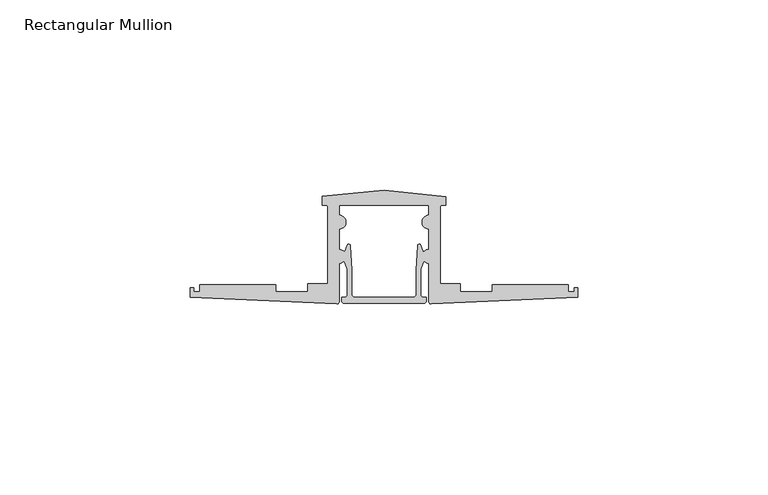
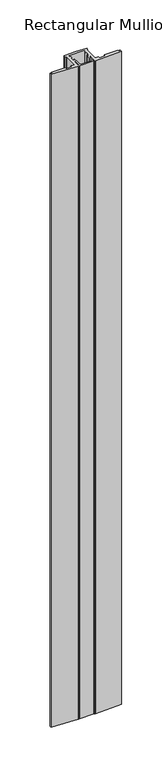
"""IFC4 building model written with IfcOpenShell, lengths in millimetres: member geometry, Rectangular Mullion : TE-H-01_03_Joint HF102."""

import ifcopenshell
import ifcopenshell.guid

model = None  # the IFC model being written
_history = None  # IfcOwnerHistory: only IFC2X3 demands one
_inside = {}  # id of a spatial element -> (the spatial element, [elements in it])
_under = {}  # id of a project, library or spatial element -> (it, [spatial elements below it])
_declared = {}  # id of a project -> (the project, [libraries it declares])
_typed = {}  # id of a type object -> (the type object, [elements of that type])
_made_of = {}  # id of a material, layer set ... -> (it, [elements and type objects made of it])


def new_model(schema):
    """Start an empty IFC model of exactly this schema.

    Asked for "IFC4X3", IfcOpenShell would pick the latest addendum, in which some entities
    have other attributes; the version numbers below select the first issue.
    IFC2X3 requires an IfcOwnerHistory on every rooted entity: one is made here for all.
    """
    global model, _history
    if schema == "IFC4X3":
        model = ifcopenshell.file(schema_version=(4, 3, 0, 0))
    else:
        model = ifcopenshell.file(schema=schema)
    _inside.clear()
    _under.clear()
    _declared.clear()
    _typed.clear()
    _made_of.clear()
    _history = None
    if model.schema == "IFC2X3":
        org = make("IfcOrganization", Name="unknown")
        user = make(
            "IfcPersonAndOrganization",
            ThePerson=make("IfcPerson", FamilyName="unknown"),
            TheOrganization=org,
        )
        app = make(
            "IfcApplication",
            ApplicationDeveloper=org,
            Version="unknown",
            ApplicationFullName="unknown",
            ApplicationIdentifier="unknown",
        )
        _history = make(
            "IfcOwnerHistory",
            OwningUser=user,
            OwningApplication=app,
            ChangeAction="ADDED",
            CreationDate=0,
        )
    return model


def make(cls, **values):
    """One entity of the class cls with the attributes given. An attribute that is None is left unset."""
    return model.create_entity(
        cls, **{name: value for name, value in values.items() if value is not None}
    )


def rooted(cls, **values):
    """An entity with a GlobalId (a new one), such as an element, a storey or a relation."""
    return make(cls, GlobalId=ifcopenshell.guid.new(), OwnerHistory=_history, **values)


def si_unit(unit_type, name, prefix=None):
    """IfcSIUnit, for example si_unit("LENGTHUNIT", "METRE", prefix="MILLI")."""
    return make("IfcSIUnit", UnitType=unit_type, Prefix=prefix, Name=name)


def assignment(units):
    """IfcUnitAssignment: the units of a project."""
    return None if units is None else make("IfcUnitAssignment", Units=units)


def point(xyz):
    """IfcCartesianPoint."""
    return None if xyz is None else make("IfcCartesianPoint", Coordinates=xyz)


def direction(xyz):
    """IfcDirection."""
    return None if xyz is None else make("IfcDirection", DirectionRatios=xyz)


def frame(location, z_axis=None, x_axis=None):
    """IfcAxis2Placement3D, a coordinate frame: its origin and axes. An axis left out is left unset."""
    return make(
        "IfcAxis2Placement3D",
        Location=point(location),
        Axis=direction(z_axis),
        RefDirection=direction(x_axis),
    )


def frame_2d(location, x_axis=None):
    """IfcAxis2Placement2D, a coordinate frame in the plane: its origin and x axis."""
    return make(
        "IfcAxis2Placement2D", Location=point(location), RefDirection=direction(x_axis)
    )


def origin():
    """The frame at (0, 0, 0) with its axes left unset."""
    return frame((0.0, 0.0, 0.0))


def place(relative_to, where):
    """IfcLocalPlacement: puts the frame where relative to a parent placement (None: the world)."""
    return make(
        "IfcLocalPlacement", PlacementRelTo=relative_to, RelativePlacement=where
    )


def context(
    kind, dimensions, precision=None, world=None, true_north=None, identifier=None
):
    """IfcGeometricRepresentationContext, for example the 3D "Model" context."""
    return make(
        "IfcGeometricRepresentationContext",
        ContextIdentifier=identifier,
        ContextType=kind,
        CoordinateSpaceDimension=dimensions,
        Precision=precision,
        WorldCoordinateSystem=world,
        TrueNorth=true_north,
    )


def project(units=None, contexts=None):
    """IfcProject with its units and contexts."""
    return rooted(
        "IfcProject",
        Name="project",
        RepresentationContexts=contexts,
        UnitsInContext=assignment(units),
    )


def spatial(cls, under=None, at=None, **own):
    """A site, building, storey or space (cls), placed at a placement, below another one or the project."""
    s = rooted(cls, ObjectPlacement=at, **own)
    if under is not None:
        _under.setdefault(under.id(), (under, []))[1].append(s)
    return s


def polyline(points):
    """IfcPolyline through the points."""
    return make("IfcPolyline", Points=[point(p) for p in points])


def circle_curve(where, radius):
    """IfcCircle in the frame where."""
    return make("IfcCircle", Position=where, Radius=radius)


def trimmed(basis, trim1, trim2, sense, master):
    """IfcTrimmedCurve: the piece of a basis curve between two trims."""
    return make(
        "IfcTrimmedCurve",
        BasisCurve=basis,
        Trim1=trim1,
        Trim2=trim2,
        SenseAgreement=sense,
        MasterRepresentation=master,
    )


def segment(curve, same_sense, transition):
    """IfcCompositeCurveSegment."""
    return make(
        "IfcCompositeCurveSegment",
        Transition=transition,
        SameSense=same_sense,
        ParentCurve=curve,
    )


def composite_curve(segments, self_intersect=None):
    """IfcCompositeCurve: segments joined end to end."""
    return make("IfcCompositeCurve", Segments=segments, SelfIntersect=self_intersect)


def outline(outer, holes=None, kind="AREA"):
    """IfcArbitraryClosedProfileDef: a profile drawn as a closed curve; with holes, ...WithVoids."""
    if holes is None:
        return make("IfcArbitraryClosedProfileDef", ProfileType=kind, OuterCurve=outer)
    return make(
        "IfcArbitraryProfileDefWithVoids",
        ProfileType=kind,
        OuterCurve=outer,
        InnerCurves=holes,
    )


def extrude(swept, where, along, depth):
    """IfcExtrudedAreaSolid: the profile swept, set in the frame where, extruded along a direction by depth."""
    return make(
        "IfcExtrudedAreaSolid",
        SweptArea=swept,
        Position=where,
        ExtrudedDirection=direction(along),
        Depth=depth,
    )


def shape(context_of_items, identifier, shape_type, items):
    """IfcShapeRepresentation: the items that make up one representation, for example the "Body"."""
    return make(
        "IfcShapeRepresentation",
        ContextOfItems=context_of_items,
        RepresentationIdentifier=identifier,
        RepresentationType=shape_type,
        Items=items,
    )


def source(mapping_origin, context_of_items, identifier, shape_type, items):
    """IfcRepresentationMap: a shape defined once, which mapped items show again and again."""
    return make(
        "IfcRepresentationMap",
        MappingOrigin=mapping_origin,
        MappedRepresentation=shape(context_of_items, identifier, shape_type, items),
    )


def transform(
    local_origin,
    x_axis=None,
    y_axis=None,
    z_axis=None,
    scale=None,
    scale2=None,
    scale3=None,
    uniform=True,
):
    """IfcCartesianTransformationOperator3D, or its non-uniform kind. x_axis, y_axis, z_axis: its Axis1, 2, 3."""
    if uniform:
        return make(
            "IfcCartesianTransformationOperator3D",
            Axis1=direction(x_axis),
            Axis2=direction(y_axis),
            LocalOrigin=point(local_origin),
            Scale=scale,
            Axis3=direction(z_axis),
        )
    return make(
        "IfcCartesianTransformationOperator3DnonUniform",
        Axis1=direction(x_axis),
        Axis2=direction(y_axis),
        LocalOrigin=point(local_origin),
        Scale=scale,
        Axis3=direction(z_axis),
        Scale2=scale2,
        Scale3=scale3,
    )


def mapped(mapping_source, mapping_target):
    """IfcMappedItem: shows the shape of a source again, moved by a transform."""
    return make(
        "IfcMappedItem", MappingSource=mapping_source, MappingTarget=mapping_target
    )


def made_of(thing, what):
    """Note that an element or type object is made of a material, layer set ...; save() writes the relation."""
    if what is not None:
        _made_of.setdefault(what.id(), (what, []))[1].append(thing)
    return thing


def element(
    cls,
    number,
    at=None,
    inside=None,
    cuts=None,
    type_object=None,
    material=None,
    context=None,
    identifier="Body",
    shape_type=None,
    held_by="IfcProductDefinitionShape",
    body=None,
    shapes=None,
    **own,
):
    """One element of the class cls, such as IfcWall. Its Tag is "e" and its number.

    at: its placement. inside: the storey or other place that contains it. cuts: it is an
    opening in that element (IfcRelVoidsElement). A single representation is given by context,
    identifier, shape_type and body (its items); several are given by shapes. held_by: the class
    of the entity that holds the representations. save() writes the other relations.
    """
    e = rooted(cls, Tag="e%d" % number, ObjectPlacement=at, **own)
    if body is not None:
        shapes = [shape(context, identifier, shape_type, body)]
    if shapes is not None:
        e.Representation = make(held_by, Representations=shapes)
    if inside is not None:
        _inside.setdefault(inside.id(), (inside, []))[1].append(e)
    if cuts is not None:
        rooted(
            "IfcRelVoidsElement", RelatingBuildingElement=cuts, RelatedOpeningElement=e
        )
    if type_object is not None:
        _typed.setdefault(type_object.id(), (type_object, []))[1].append(e)
    return made_of(e, material)


def aggregate(whole, parts):
    """IfcRelAggregates: a whole, such as a stair, and the parts it consists of."""
    return rooted("IfcRelAggregates", RelatingObject=whole, RelatedObjects=parts)


def save(model, path):
    """Write the relations noted so far, then the file.

    IfcRelAggregates (storeys below a building ...), IfcRelContainedInSpatialStructure (elements
    in a storey), IfcRelDefinesByType, IfcRelAssociatesMaterial and IfcRelDeclares: one each for
    every whole, place, type object, material and project.
    """
    for whole, parts in _under.values():
        aggregate(whole, parts)
    for where, things in _inside.values():
        rooted(
            "IfcRelContainedInSpatialStructure",
            RelatedElements=things,
            RelatingStructure=where,
        )
    for kind, things in _typed.values():
        rooted("IfcRelDefinesByType", RelatedObjects=things, RelatingType=kind)
    for what, things in _made_of.values():
        rooted("IfcRelAssociatesMaterial", RelatedObjects=things, RelatingMaterial=what)
    for by, libraries in _declared.values():
        rooted("IfcRelDeclares", RelatingContext=by, RelatedDefinitions=libraries)
    model.write(path)


def rectangular_mullion_6308ee2a(model_context):
    return source(origin(), model_context, "Body", "SweptSolid", [
        extrude(outline(composite_curve([segment(polyline([(-16.3, 20.7636928), (-16.3, 23.0943093)]), True, "CONTINUOUS"), segment(trimmed(circle_curve(frame_2d((-0.3778425, -55.077345)), 79.7767048), [point((-16.3, 23.0943093))], [point((16.3, 22.9365782))], False, "CARTESIAN"), True, "CONTINUOUS"), segment(polyline([(16.3, 22.9365782), (16.3, 20.7636928), (15.35, 20.7636928)]), True, "CONTINUOUS"), segment(trimmed(circle_curve(frame_2d((15.35, 20.2136928)), 0.55), [point((15.35, 20.7636928))], [point((14.8, 20.2136928))], True, "CARTESIAN"), True, "CONTINUOUS"), segment(polyline([(14.8, 20.2136928), (14.8, 0.0), (20.0, 0.0), (20.0, -2.0), (28.4182257, -2.0), (28.4182257, -0.2), (48.4182257, -0.2), (48.4182257, -2.0), (50.0239552, -2.0), (50.0239552, -1.0305469), (51.002067, -1.0305469), (51.002067, -3.421028), (12.3757889, -5.2341639)]), True, "CONTINUOUS"), segment(trimmed(circle_curve(frame_2d((12.35, -4.6847689)), 0.55), [point((12.3757889, -5.2341639))], [point((11.8, -4.6847689))], False, "CARTESIAN"), True, "CONTINUOUS"), segment(polyline([(11.8, -4.6847689), (11.8, 5.4634871)]), True, "CONTINUOUS"), segment(trimmed(circle_curve(frame_2d((11.8, 7.2634871)), 1.8), [point((11.8, 5.4634871))], [point((10.4804437, 6.039244))], False, "CARTESIAN"), True, "CONTINUOUS"), segment(polyline([(10.4804437, 6.039244), (9.7126284, 3.8448708), (9.7126284, -2.9982227)]), True, "CONTINUOUS"), segment(trimmed(circle_curve(frame_2d((10.2626284, -2.9982227)), 0.55), [point((9.7126284, -2.9982227))], [point((10.2626284, -3.5482227))], True, "CARTESIAN"), True, "CONTINUOUS"), segment(polyline([(10.2626284, -3.5482227), (11.0624892, -3.5482227), (11.0624892, -4.4982227)]), True, "CONTINUOUS"), segment(trimmed(circle_curve(frame_2d((10.5124892, -4.4982227)), 0.55), [point((11.0624892, -4.4982227))], [point((10.5124892, -5.0482227))], False, "CARTESIAN"), True, "CONTINUOUS"), segment(polyline([(10.5124892, -5.0482227), (-10.5124892, -5.0482227)]), True, "CONTINUOUS"), segment(trimmed(circle_curve(frame_2d((-10.5124892, -4.4982227)), 0.55), [point((-10.5124892, -5.0482227))], [point((-11.0624892, -4.4982227))], False, "CARTESIAN"), True, "CONTINUOUS"), segment(polyline([(-11.0624892, -4.4982227), (-11.0624892, -3.5482227), (-10.2626284, -3.5482227)]), True, "CONTINUOUS"), segment(trimmed(circle_curve(frame_2d((-10.2626284, -2.9982227)), 0.55), [point((-10.2626284, -3.5482227))], [point((-9.7126284, -2.9982227))], True, "CARTESIAN"), True, "CONTINUOUS"), segment(polyline([(-9.7126284, -2.9982227), (-9.7126284, 3.8448708), (-10.4433575, 5.9332537)]), True, "CONTINUOUS"), segment(trimmed(circle_curve(frame_2d((-11.8, 7.2634871)), 1.9), [point((-10.4433575, 5.9332537))], [point((-10.3404276, 8.4798952))], True, "CARTESIAN"), True, "CONTINUOUS"), segment(polyline([(-10.3404276, 8.4798952), (-9.6235002, 10.2360599)]), True, "CONTINUOUS"), segment(trimmed(circle_curve(frame_2d((-9.2715591, 10.0931911)), 0.3798342), [point((-9.6235002, 10.2360599))], [point((-8.8921936, 10.1120555))], False, "CARTESIAN"), True, "CONTINUOUS"), segment(polyline([(-8.8921936, 10.1120555), (-8.5126282, 3.7696514), (-8.5126282, -2.5482227)]), True, "CONTINUOUS"), segment(trimmed(circle_curve(frame_2d((-7.5126282, -2.5482227)), 1.0), [point((-8.5126282, -2.5482227))], [point((-7.5126282, -3.5482227))], True, "CARTESIAN"), True, "CONTINUOUS"), segment(polyline([(-7.5126282, -3.5482227), (7.5126282, -3.5482227)]), True, "CONTINUOUS"), segment(trimmed(circle_curve(frame_2d((7.5126282, -2.5482227)), 1.0), [point((7.5126282, -3.5482227))], [point((8.5126282, -2.5482227))], True, "CARTESIAN"), True, "CONTINUOUS"), segment(polyline([(8.5126282, -2.5482227), (8.5126282, 3.7696514), (8.8921936, 10.1120555)]), True, "CONTINUOUS"), segment(trimmed(circle_curve(frame_2d((9.2715591, 10.0931911)), 0.3798342), [point((8.8921936, 10.1120555))], [point((9.6235001, 10.23606))], False, "CARTESIAN"), True, "CONTINUOUS"), segment(polyline([(9.6235001, 10.23606), (10.3835688, 8.3742178)]), True, "CONTINUOUS"), segment(trimmed(circle_curve(frame_2d((11.8, 7.2634871)), 1.8), [point((10.3835688, 8.3742178))], [point((11.8, 9.0634871))], False, "CARTESIAN"), True, "CONTINUOUS"), segment(polyline([(11.8, 9.0634871), (11.8, 14.4634871)]), True, "CONTINUOUS"), segment(trimmed(circle_curve(frame_2d((11.8, 16.2634871)), 1.8), [point((11.8, 14.4634871))], [point((11.8, 18.0634871))], False, "CARTESIAN"), True, "CONTINUOUS"), segment(polyline([(11.8, 18.0634871), (11.8, 20.7636928), (-11.8, 20.7636928), (-11.8, 18.0634871)]), True, "CONTINUOUS"), segment(trimmed(circle_curve(frame_2d((-11.8, 16.2634871)), 1.8), [point((-11.8, 18.0634871))], [point((-11.8, 14.4634871))], False, "CARTESIAN"), True, "CONTINUOUS"), segment(polyline([(-11.8, 14.4634871), (-11.8, 9.0634871)]), True, "CONTINUOUS"), segment(trimmed(circle_curve(frame_2d((-11.8, 7.2634871)), 1.8), [point((-11.8, 9.0634871))], [point((-11.8, 5.4634871))], False, "CARTESIAN"), True, "CONTINUOUS"), segment(polyline([(-11.8, 5.4634871), (-11.8, -4.6847689)]), True, "CONTINUOUS"), segment(trimmed(circle_curve(frame_2d((-12.35, -4.6847689)), 0.55), [point((-11.8, -4.6847689))], [point((-12.3757889, -5.2341639))], False, "CARTESIAN"), True, "CONTINUOUS"), segment(polyline([(-12.3757889, -5.2341639), (-51.002067, -3.421028), (-51.002067, -1.0305469), (-50.0239552, -1.0305469), (-50.0239552, -2.0), (-48.4182257, -2.0), (-48.4182257, -0.2), (-28.4182257, -0.2), (-28.4182257, -2.0), (-20.0, -2.0), (-20.0, 0.0), (-14.8, 0.0), (-14.8, 20.2136928)]), True, "CONTINUOUS"), segment(trimmed(circle_curve(frame_2d((-15.35, 20.2136928)), 0.55), [point((-14.8, 20.2136928))], [point((-15.35, 20.7636928))], True, "CARTESIAN"), True, "CONTINUOUS"), segment(polyline([(-15.35, 20.7636928), (-16.3, 20.7636928)]), True, "CONTINUOUS")], self_intersect=False)), frame((0.0, 0.0, -1000.0), z_axis=(0.0, 0.0, 1.0), x_axis=(1.0, 0.0, 0.0)), (0.0, 0.0, 1.0), 1000.0),
    ])


if __name__ == "__main__":
    model = new_model("IFC4")
    model_context = context("Model", 3, world=origin())
    ifc_project = project(units=[si_unit("LENGTHUNIT", "METRE", prefix="MILLI")], contexts=[model_context])
    site = spatial("IfcSite", under=ifc_project)
    building = spatial("IfcBuilding", under=site)
    placement = place(None, origin())
    rectangular_mullion_shape = rectangular_mullion_6308ee2a(model_context)
    element("IfcMember", 1, ObjectType="Rectangular Mullion : TE-H-01_03_Joint HF102", at=placement, inside=building, context=model_context, shape_type="MappedRepresentation", body=[
        mapped(rectangular_mullion_shape, transform((0.0, 0.0, 0.0), x_axis=(1.0, 0.0, 0.0), y_axis=(0.0, 1.0, 0.0), z_axis=(0.0, 0.0, 1.0))),
    ])
    save(model, "model.ifc")
